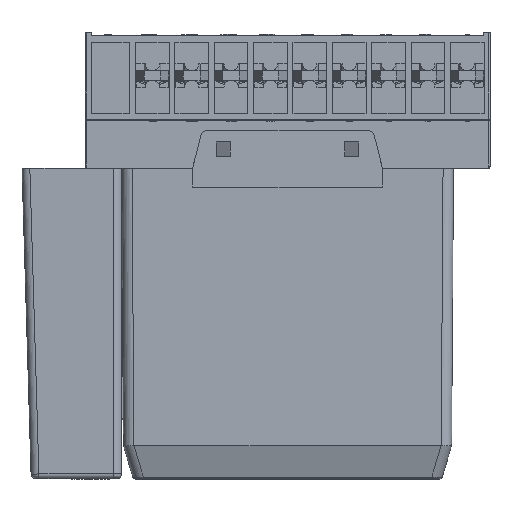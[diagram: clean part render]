
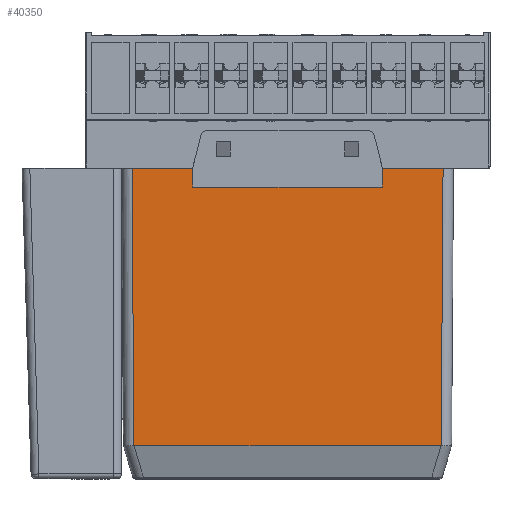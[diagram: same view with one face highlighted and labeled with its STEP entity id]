
A CAD part, top view. The second image highlights one B-rep face of the part: STEP entity #40350.
In plain terms, the highlighted planar face has unit normal (0, -0.007, 1).
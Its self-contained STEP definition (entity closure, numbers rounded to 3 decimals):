
#40350=ADVANCED_FACE('',(#96753),#96755,.T.);
#96753=FACE_BOUND('',#96754,.T.);
#96754=EDGE_LOOP('',(#150035,#150036,#150037,#150038,#150039,#150040,#150041,#150042));
#96755=PLANE('',#96756);
#96756=AXIS2_PLACEMENT_3D('',#96757,#96758,#96759);
#96757=CARTESIAN_POINT('',(-64.9,-58.522,19.2));
#96758=DIRECTION('',(0.,-0.007,1.));
#96759=DIRECTION('',(1.,0.,0.));
#150035=ORIENTED_EDGE('',*,*,#180161,.F.);
#150036=ORIENTED_EDGE('',*,*,#180162,.T.);
#150037=ORIENTED_EDGE('',*,*,#174876,.F.);
#150038=ORIENTED_EDGE('',*,*,#180146,.F.);
#150039=ORIENTED_EDGE('',*,*,#180163,.F.);
#150040=ORIENTED_EDGE('',*,*,#180129,.F.);
#150041=ORIENTED_EDGE('',*,*,#174875,.F.);
#150042=ORIENTED_EDGE('',*,*,#180160,.F.);
#174875=EDGE_CURVE('',#202052,#195878,#202054,.T.);
#174876=EDGE_CURVE('',#195876,#202055,#202056,.T.);
#180129=EDGE_CURVE('',#195878,#210347,#210348,.T.);
#180146=EDGE_CURVE('',#210379,#195876,#210380,.T.);
#180160=EDGE_CURVE('',#210400,#202052,#210402,.T.);
#180161=EDGE_CURVE('',#210403,#210400,#210404,.T.);
#180162=EDGE_CURVE('',#210403,#202055,#210405,.T.);
#180163=EDGE_CURVE('',#210347,#210379,#210406,.T.);
#195876=VERTEX_POINT('',#243946);
#195878=VERTEX_POINT('',#243950);
#202052=VERTEX_POINT('',#259482);
#202054=LINE('',#259487,#259488);
#202055=VERTEX_POINT('',#259490);
#202056=LINE('',#259491,#259492);
#210347=VERTEX_POINT('',#284878);
#210348=LINE('',#284879,#284880);
#210379=VERTEX_POINT('',#284944);
#210380=LINE('',#284945,#284946);
#210400=VERTEX_POINT('',#284991);
#210402=LINE('',#284996,#284997);
#210403=VERTEX_POINT('',#284999);
#210404=LINE('',#285000,#285001);
#210405=LINE('',#285003,#285004);
#210406=LINE('',#285006,#285007);
#243946=CARTESIAN_POINT('',(-12.5,-0.022,19.6));
#243950=CARTESIAN_POINT('',(-52.5,-0.022,19.6));
#259482=CARTESIAN_POINT('',(-65.3,-0.022,19.6));
#259487=CARTESIAN_POINT('',(-65.3,-0.022,19.6));
#259488=VECTOR('',#259489,1.);
#259489=DIRECTION('',(1.,0.,0.));
#259490=CARTESIAN_POINT('',(0.3,-0.022,19.6));
#259491=CARTESIAN_POINT('',(-12.5,-0.022,19.6));
#259492=VECTOR('',#259493,1.);
#259493=DIRECTION('',(1.,0.,0.));
#284878=CARTESIAN_POINT('',(-52.5,-4.022,19.573));
#284879=CARTESIAN_POINT('',(-52.5,-0.022,19.6));
#284880=VECTOR('',#284881,1.);
#284881=DIRECTION('',(0.,-1.,-0.007));
#284944=CARTESIAN_POINT('',(-12.5,-4.022,19.573));
#284945=CARTESIAN_POINT('',(-12.5,-4.022,19.573));
#284946=VECTOR('',#284947,1.);
#284947=DIRECTION('',(0.,1.,0.007));
#284991=CARTESIAN_POINT('',(-64.9,-58.522,19.2));
#284996=CARTESIAN_POINT('',(-64.9,-58.522,19.2));
#284997=VECTOR('',#284998,1.);
#284998=DIRECTION('',(-0.007,1.,0.007));
#284999=CARTESIAN_POINT('',(-0.1,-58.522,19.2));
#285000=CARTESIAN_POINT('',(-0.1,-58.522,19.2));
#285001=VECTOR('',#285002,1.);
#285002=DIRECTION('',(-1.,0.,0.));
#285003=CARTESIAN_POINT('',(-0.1,-58.522,19.2));
#285004=VECTOR('',#285005,1.);
#285005=DIRECTION('',(0.007,1.,0.007));
#285006=CARTESIAN_POINT('',(-52.5,-4.022,19.573));
#285007=VECTOR('',#285008,1.);
#285008=DIRECTION('',(1.,0.,0.));
